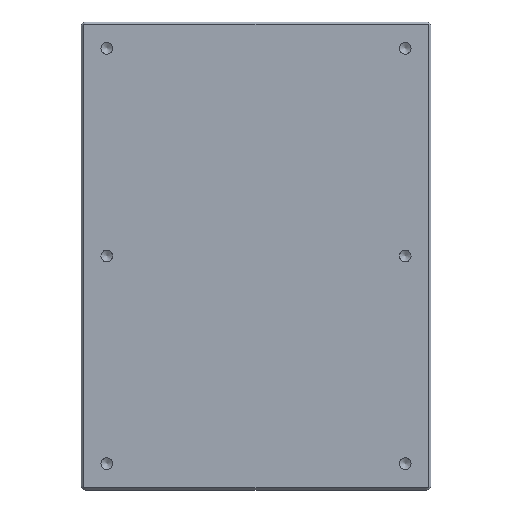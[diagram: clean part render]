
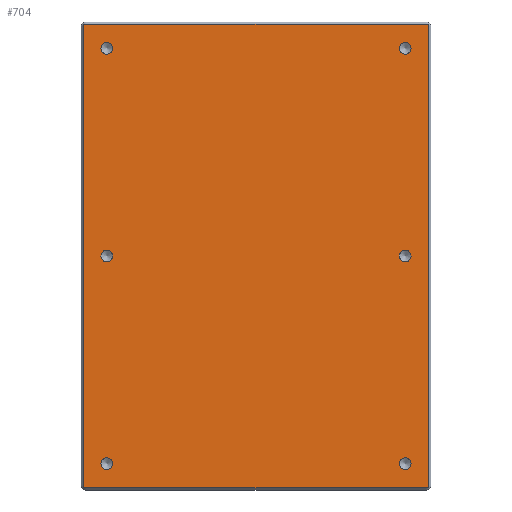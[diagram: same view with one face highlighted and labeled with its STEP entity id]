
A CAD part, front view. The second image highlights one B-rep face of the part: STEP entity #704.
In plain terms, the highlighted planar face has unit normal (0, -1, 0).
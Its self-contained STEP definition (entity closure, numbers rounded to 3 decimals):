
#6 = ORIENTED_EDGE ( 'NONE', *, *, #221, .T. ) ;
#17 = DIRECTION ( 'NONE',  ( 0., -1., 0. ) ) ;
#23 = EDGE_CURVE ( 'NONE', #793, #793, #696, .T. ) ;
#24 = LINE ( 'NONE', #1249, #966 ) ;
#41 = AXIS2_PLACEMENT_3D ( 'NONE', #46, #613, #1055 ) ;
#46 = CARTESIAN_POINT ( 'NONE',  ( 116.5, -19., 3. ) ) ;
#48 = CARTESIAN_POINT ( 'NONE',  ( -118., -19., 0. ) ) ;
#50 = VERTEX_POINT ( 'NONE', #944 ) ;
#56 = LINE ( 'NONE', #476, #825 ) ;
#66 = DIRECTION ( 'NONE',  ( 0., 0., 1. ) ) ;
#74 = ORIENTED_EDGE ( 'NONE', *, *, #850, .F. ) ;
#96 = DIRECTION ( 'NONE',  ( 0., 0., -1. ) ) ;
#98 = DIRECTION ( 'NONE',  ( 0., -1., 0. ) ) ;
#113 = PLANE ( 'NONE',  #488 ) ;
#132 = CARTESIAN_POINT ( 'NONE',  ( -102., -19., 14. ) ) ;
#153 = VECTOR ( 'NONE', #162, 1000. ) ;
#154 = CIRCLE ( 'NONE', #1036, 1.5 ) ;
#156 = CIRCLE ( 'NONE', #1061, 4. ) ;
#162 = DIRECTION ( 'NONE',  ( 0., 0., -1. ) ) ;
#186 = EDGE_CURVE ( 'NONE', #484, #838, #713, .T. ) ;
#190 = CARTESIAN_POINT ( 'NONE',  ( 116.5, -19., 318.5 ) ) ;
#207 = EDGE_CURVE ( 'NONE', #838, #50, #594, .T. ) ;
#221 = EDGE_CURVE ( 'NONE', #364, #1085, #56, .T. ) ;
#222 = CARTESIAN_POINT ( 'NONE',  ( 102., -19., 14. ) ) ;
#227 = CARTESIAN_POINT ( 'NONE',  ( -102., -19., 160. ) ) ;
#243 = DIRECTION ( 'NONE',  ( -1., 0., 0. ) ) ;
#247 = CIRCLE ( 'NONE', #436, 4. ) ;
#268 = CIRCLE ( 'NONE', #1181, 4. ) ;
#297 = CARTESIAN_POINT ( 'NONE',  ( -116.5, -19., 317. ) ) ;
#309 = DIRECTION ( 'NONE',  ( 0., 0., -1. ) ) ;
#327 = CARTESIAN_POINT ( 'NONE',  ( -118., -19., 317. ) ) ;
#331 = DIRECTION ( 'NONE',  ( 0., -1., 0. ) ) ;
#333 = CARTESIAN_POINT ( 'NONE',  ( -102., -19., 298. ) ) ;
#335 = VECTOR ( 'NONE', #780, 1000. ) ;
#337 = ORIENTED_EDGE ( 'NONE', *, *, #1090, .T. ) ;
#361 = CARTESIAN_POINT ( 'NONE',  ( -102., -19., 156. ) ) ;
#364 = VERTEX_POINT ( 'NONE', #412 ) ;
#372 = DIRECTION ( 'NONE',  ( 0., 0., -1. ) ) ;
#376 = AXIS2_PLACEMENT_3D ( 'NONE', #424, #98, #309 ) ;
#412 = CARTESIAN_POINT ( 'NONE',  ( 118., -19., 3. ) ) ;
#418 = FACE_BOUND ( 'NONE', #973, .T. ) ;
#421 = ORIENTED_EDGE ( 'NONE', *, *, #580, .F. ) ;
#424 = CARTESIAN_POINT ( 'NONE',  ( 102., -19., 160. ) ) ;
#431 = DIRECTION ( 'NONE',  ( 0., 0., -1. ) ) ;
#436 = AXIS2_PLACEMENT_3D ( 'NONE', #1010, #17, #457 ) ;
#457 = DIRECTION ( 'NONE',  ( 0., 0., -1. ) ) ;
#469 = CARTESIAN_POINT ( 'NONE',  ( 102., -19., 298. ) ) ;
#476 = CARTESIAN_POINT ( 'NONE',  ( 118., -19., 0. ) ) ;
#482 = CARTESIAN_POINT ( 'NONE',  ( -116.5, -19., 3. ) ) ;
#484 = VERTEX_POINT ( 'NONE', #327 ) ;
#485 = EDGE_CURVE ( 'NONE', #50, #904, #1133, .T. ) ;
#488 = AXIS2_PLACEMENT_3D ( 'NONE', #547, #993, #1438 ) ;
#496 = CARTESIAN_POINT ( 'NONE',  ( -116.5, -19., 318.5 ) ) ;
#509 = ORIENTED_EDGE ( 'NONE', *, *, #1187, .F. ) ;
#526 = AXIS2_PLACEMENT_3D ( 'NONE', #227, #331, #676 ) ;
#534 = ORIENTED_EDGE ( 'NONE', *, *, #207, .T. ) ;
#547 = CARTESIAN_POINT ( 'NONE',  ( -120., -19., 0. ) ) ;
#551 = ORIENTED_EDGE ( 'NONE', *, *, #23, .F. ) ;
#558 = ORIENTED_EDGE ( 'NONE', *, *, #485, .T. ) ;
#575 = AXIS2_PLACEMENT_3D ( 'NONE', #297, #1193, #431 ) ;
#580 = EDGE_CURVE ( 'NONE', #1240, #1240, #633, .T. ) ;
#594 = CIRCLE ( 'NONE', #939, 1.5 ) ;
#601 = DIRECTION ( 'NONE',  ( 0., -1., 0. ) ) ;
#613 = DIRECTION ( 'NONE',  ( 0., -1., 0. ) ) ;
#633 = CIRCLE ( 'NONE', #376, 4. ) ;
#671 = CIRCLE ( 'NONE', #41, 1.5 ) ;
#676 = DIRECTION ( 'NONE',  ( 0., 0., -1. ) ) ;
#696 = CIRCLE ( 'NONE', #875, 4. ) ;
#704 = ADVANCED_FACE ( 'NONE', ( #739, #1419, #418, #1432, #1311, #1107, #755 ), #113, .T. ) ;
#713 = LINE ( 'NONE', #48, #153 ) ;
#714 = ORIENTED_EDGE ( 'NONE', *, *, #735, .F. ) ;
#724 = DIRECTION ( 'NONE',  ( 0., 0., -1. ) ) ;
#725 = EDGE_LOOP ( 'NONE', ( #509 ) ) ;
#735 = EDGE_CURVE ( 'NONE', #1252, #1252, #268, .T. ) ;
#739 = FACE_BOUND ( 'NONE', #812, .T. ) ;
#755 = FACE_OUTER_BOUND ( 'NONE', #819, .T. ) ;
#766 = ORIENTED_EDGE ( 'NONE', *, *, #1066, .T. ) ;
#778 = VERTEX_POINT ( 'NONE', #132 ) ;
#780 = DIRECTION ( 'NONE',  ( 1., 0., 0. ) ) ;
#781 = EDGE_LOOP ( 'NONE', ( #74 ) ) ;
#785 = CARTESIAN_POINT ( 'NONE',  ( 102., -19., 302. ) ) ;
#789 = ORIENTED_EDGE ( 'NONE', *, *, #1269, .F. ) ;
#793 = VERTEX_POINT ( 'NONE', #333 ) ;
#796 = EDGE_LOOP ( 'NONE', ( #789 ) ) ;
#812 = EDGE_LOOP ( 'NONE', ( #551 ) ) ;
#819 = EDGE_LOOP ( 'NONE', ( #337, #1025, #534, #558, #889, #6, #766, #1169 ) ) ;
#821 = CARTESIAN_POINT ( 'NONE',  ( 116.5, -19., 1.5 ) ) ;
#822 = EDGE_CURVE ( 'NONE', #1427, #897, #24, .T. ) ;
#825 = VECTOR ( 'NONE', #66, 1000. ) ;
#838 = VERTEX_POINT ( 'NONE', #1125 ) ;
#850 = EDGE_CURVE ( 'NONE', #778, #778, #247, .T. ) ;
#875 = AXIS2_PLACEMENT_3D ( 'NONE', #1054, #1401, #372 ) ;
#889 = ORIENTED_EDGE ( 'NONE', *, *, #988, .T. ) ;
#891 = VERTEX_POINT ( 'NONE', #361 ) ;
#897 = VERTEX_POINT ( 'NONE', #496 ) ;
#904 = VERTEX_POINT ( 'NONE', #821 ) ;
#931 = CARTESIAN_POINT ( 'NONE',  ( 102., -19., 18. ) ) ;
#939 = AXIS2_PLACEMENT_3D ( 'NONE', #482, #1059, #1372 ) ;
#944 = CARTESIAN_POINT ( 'NONE',  ( -116.5, -19., 1.5 ) ) ;
#966 = VECTOR ( 'NONE', #243, 1000. ) ;
#973 = EDGE_LOOP ( 'NONE', ( #421 ) ) ;
#988 = EDGE_CURVE ( 'NONE', #904, #364, #671, .T. ) ;
#993 = DIRECTION ( 'NONE',  ( 0., -1., 0. ) ) ;
#1010 = CARTESIAN_POINT ( 'NONE',  ( -102., -19., 18. ) ) ;
#1025 = ORIENTED_EDGE ( 'NONE', *, *, #186, .T. ) ;
#1036 = AXIS2_PLACEMENT_3D ( 'NONE', #1106, #1423, #96 ) ;
#1054 = CARTESIAN_POINT ( 'NONE',  ( -102., -19., 302. ) ) ;
#1055 = DIRECTION ( 'NONE',  ( 0., 0., -1. ) ) ;
#1059 = DIRECTION ( 'NONE',  ( 0., -1., 0. ) ) ;
#1061 = AXIS2_PLACEMENT_3D ( 'NONE', #931, #601, #724 ) ;
#1066 = EDGE_CURVE ( 'NONE', #1085, #1427, #154, .T. ) ;
#1085 = VERTEX_POINT ( 'NONE', #1429 ) ;
#1090 = EDGE_CURVE ( 'NONE', #897, #484, #1324, .T. ) ;
#1106 = CARTESIAN_POINT ( 'NONE',  ( 116.5, -19., 317. ) ) ;
#1107 = FACE_BOUND ( 'NONE', #796, .T. ) ;
#1125 = CARTESIAN_POINT ( 'NONE',  ( -118., -19., 3. ) ) ;
#1133 = LINE ( 'NONE', #1360, #335 ) ;
#1138 = CARTESIAN_POINT ( 'NONE',  ( 102., -19., 156. ) ) ;
#1169 = ORIENTED_EDGE ( 'NONE', *, *, #822, .T. ) ;
#1181 = AXIS2_PLACEMENT_3D ( 'NONE', #785, #1358, #1232 ) ;
#1183 = EDGE_LOOP ( 'NONE', ( #714 ) ) ;
#1184 = CIRCLE ( 'NONE', #526, 4. ) ;
#1187 = EDGE_CURVE ( 'NONE', #891, #891, #1184, .T. ) ;
#1193 = DIRECTION ( 'NONE',  ( 0., -1., 0. ) ) ;
#1224 = VERTEX_POINT ( 'NONE', #222 ) ;
#1232 = DIRECTION ( 'NONE',  ( 0., 0., -1. ) ) ;
#1240 = VERTEX_POINT ( 'NONE', #1138 ) ;
#1249 = CARTESIAN_POINT ( 'NONE',  ( -120., -19., 318.5 ) ) ;
#1252 = VERTEX_POINT ( 'NONE', #469 ) ;
#1269 = EDGE_CURVE ( 'NONE', #1224, #1224, #156, .T. ) ;
#1311 = FACE_BOUND ( 'NONE', #781, .T. ) ;
#1324 = CIRCLE ( 'NONE', #575, 1.5 ) ;
#1358 = DIRECTION ( 'NONE',  ( 0., -1., 0. ) ) ;
#1360 = CARTESIAN_POINT ( 'NONE',  ( -120., -19., 1.5 ) ) ;
#1372 = DIRECTION ( 'NONE',  ( 0., 0., -1. ) ) ;
#1401 = DIRECTION ( 'NONE',  ( 0., -1., 0. ) ) ;
#1419 = FACE_BOUND ( 'NONE', #1183, .T. ) ;
#1423 = DIRECTION ( 'NONE',  ( 0., -1., 0. ) ) ;
#1427 = VERTEX_POINT ( 'NONE', #190 ) ;
#1429 = CARTESIAN_POINT ( 'NONE',  ( 118., -19., 317. ) ) ;
#1432 = FACE_BOUND ( 'NONE', #725, .T. ) ;
#1438 = DIRECTION ( 'NONE',  ( 0., 0., -1. ) ) ;
